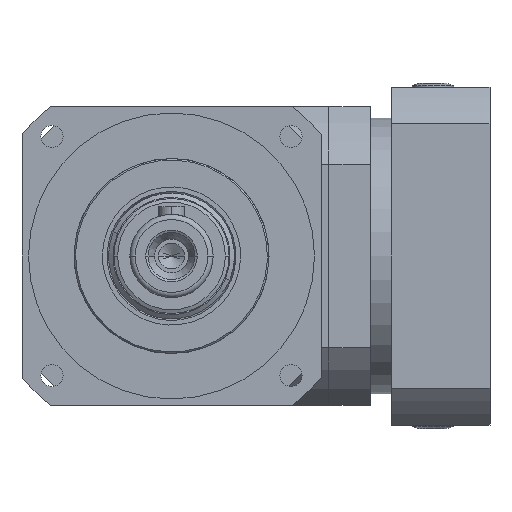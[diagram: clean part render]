
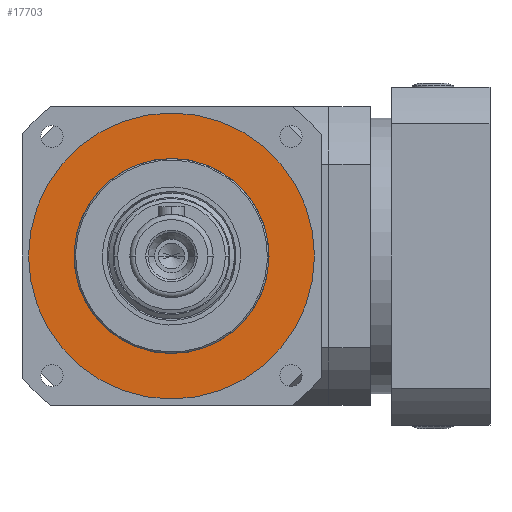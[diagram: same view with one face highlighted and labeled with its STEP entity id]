
A CAD part, left-side view. The second image highlights one B-rep face of the part: STEP entity #17703.
In plain terms, the highlighted planar face has unit normal (-1, 0, 0).
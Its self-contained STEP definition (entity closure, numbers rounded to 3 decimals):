
#132 = AXIS2_PLACEMENT_3D ( 'NONE', #710, #17313, #3070 ) ;
#583 = FACE_OUTER_BOUND ( 'NONE', #9251, .T. ) ;
#629 = CARTESIAN_POINT ( 'NONE',  ( -67., 0., 0. ) ) ;
#710 = CARTESIAN_POINT ( 'NONE',  ( -67., 0., 0. ) ) ;
#2564 = DIRECTION ( 'NONE',  ( -1., 0., 0. ) ) ;
#2850 = DIRECTION ( 'NONE',  ( 0., 0., -1. ) ) ;
#2995 = DIRECTION ( 'NONE',  ( 0., 0., 1. ) ) ;
#3070 = DIRECTION ( 'NONE',  ( 0., 0., 1. ) ) ;
#5588 = EDGE_CURVE ( 'NONE', #15877, #5725, #7715, .T. ) ;
#5725 = VERTEX_POINT ( 'NONE', #17225 ) ;
#6896 = FACE_BOUND ( 'NONE', #14933, .T. ) ;
#7715 = CIRCLE ( 'NONE', #11293, 55. ) ;
#9251 = EDGE_LOOP ( 'NONE', ( #27420, #13282 ) ) ;
#9446 = AXIS2_PLACEMENT_3D ( 'NONE', #629, #17242, #2995 ) ;
#9639 = CARTESIAN_POINT ( 'NONE',  ( -67., 0., 55. ) ) ;
#9677 = DIRECTION ( 'NONE',  ( -1., 0., 0. ) ) ;
#9958 = CARTESIAN_POINT ( 'NONE',  ( -67., 0., 0. ) ) ;
#10526 = ORIENTED_EDGE ( 'NONE', *, *, #21125, .F. ) ;
#11293 = AXIS2_PLACEMENT_3D ( 'NONE', #16809, #2564, #19178 ) ;
#11384 = EDGE_CURVE ( 'NONE', #5725, #15877, #24591, .T. ) ;
#11560 = CARTESIAN_POINT ( 'NONE',  ( -67., 0., 37.5 ) ) ;
#12533 = VERTEX_POINT ( 'NONE', #28816 ) ;
#13282 = ORIENTED_EDGE ( 'NONE', *, *, #11384, .T. ) ;
#13734 = AXIS2_PLACEMENT_3D ( 'NONE', #23853, #9677, #26247 ) ;
#13902 = ORIENTED_EDGE ( 'NONE', *, *, #15318, .F. ) ;
#14933 = EDGE_LOOP ( 'NONE', ( #10526, #13902 ) ) ;
#15318 = EDGE_CURVE ( 'NONE', #12533, #30605, #30412, .T. ) ;
#15877 = VERTEX_POINT ( 'NONE', #9639 ) ;
#16809 = CARTESIAN_POINT ( 'NONE',  ( -67., 0., 0. ) ) ;
#17099 = DIRECTION ( 'NONE',  ( 1., 0., 0. ) ) ;
#17225 = CARTESIAN_POINT ( 'NONE',  ( -67., 0., -55. ) ) ;
#17242 = DIRECTION ( 'NONE',  ( -1., 0., 0. ) ) ;
#17313 = DIRECTION ( 'NONE',  ( -1., 0., 0. ) ) ;
#17537 = CIRCLE ( 'NONE', #132, 37.5 ) ;
#17703 = ADVANCED_FACE ( 'NONE', ( #6896, #583 ), #19363, .F. ) ;
#19178 = DIRECTION ( 'NONE',  ( 0., 0., 1. ) ) ;
#19363 = PLANE ( 'NONE',  #22726 ) ;
#21125 = EDGE_CURVE ( 'NONE', #30605, #12533, #17537, .T. ) ;
#22726 = AXIS2_PLACEMENT_3D ( 'NONE', #9958, #17099, #2850 ) ;
#23853 = CARTESIAN_POINT ( 'NONE',  ( -67., 0., 0. ) ) ;
#24591 = CIRCLE ( 'NONE', #9446, 55. ) ;
#26247 = DIRECTION ( 'NONE',  ( 0., 0., 1. ) ) ;
#27420 = ORIENTED_EDGE ( 'NONE', *, *, #5588, .T. ) ;
#28816 = CARTESIAN_POINT ( 'NONE',  ( -67., 0., -37.5 ) ) ;
#30412 = CIRCLE ( 'NONE', #13734, 37.5 ) ;
#30605 = VERTEX_POINT ( 'NONE', #11560 ) ;
